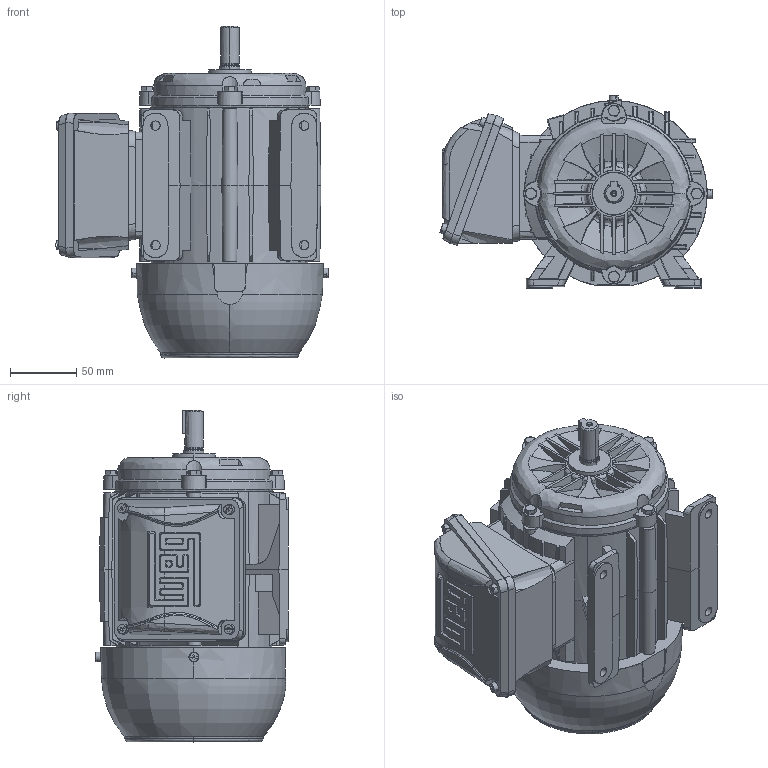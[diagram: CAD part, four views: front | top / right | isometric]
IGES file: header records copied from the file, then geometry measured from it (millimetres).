
Start section: SolidWorks IGES file using analytic representation for surfaces
Global section: file name: C:\Users\ianr\Documents\Trabalho de Implantação de linha\Wwash\IEC\02_FRAME_71\STANDARD\IGS\71_LEFT.IGS; native system: SolidWorks 2012; preprocessor: SolidWorks 2012; author: ianr; date: 131031.111245; units: millimetre
Bounding box: 204.93 x 144.95 x 250 mm (x, y, z)
Surface area: 297259.8 mm2 (no closed solid volume)
Topology: 0 solids, 0 shells, 1533 faces, 14630 edges, 14628 vertices
Faces by surface type: bspline 1140, revolution 393
